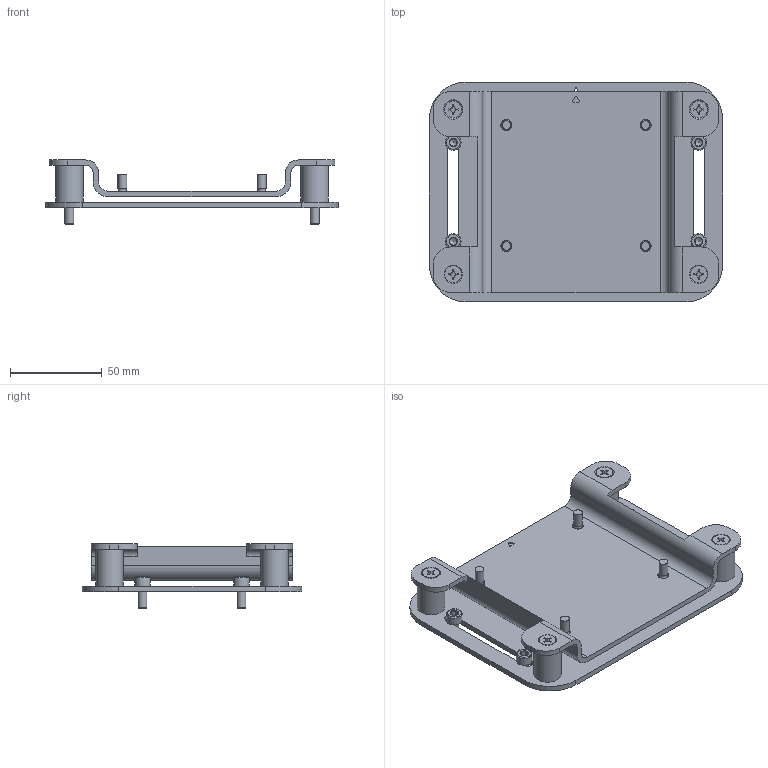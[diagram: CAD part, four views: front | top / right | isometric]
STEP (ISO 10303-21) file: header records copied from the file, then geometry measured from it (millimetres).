
FILE_DESCRIPTION(/* description */ (''),/* implementation_level */ '2;1');
FILE_NAME(/* name */ 'KLM-ZJ-SZ.stp',/* time_stamp */ '2025-08-06T18:02:09+08:00',/* author */ (''),/* organization */ (''),/* preprocessor_version */ 'ST-DEVELOPER v16',/* originating_system */ 'SIEMENS PLM Software NX 10.0',/* authorisation */ '');
FILE_SCHEMA (('AP203_CONFIGURATION_CONTROLLED_3D_DESIGN_OF_MECHANICAL_PARTS_AND_ASSEMBLIES_MIM_LF { 1 0 10303 403 2 1 2}'));
Length unit declared in the file: millimetre
Products named in the file (1): JSB-34C87966jyn5
Bounding box: 160 x 120 x 35 mm (x, y, z)
Volume: 120453.5 mm3; surface area: 84374 mm2
Topology: 22 solids, 22 shells, 549 faces, 1324 edges, 836 vertices
Faces by surface type: plane 385, cylinder 84, cone 60, torus 20
Full cylindrical faces by diameter (mm): 4.826 x16, 6 x16, 8.5 x4, 9.3 x12, 15 x4
Entity records: 19087 total; most frequent: CARTESIAN_POINT 2760, DIRECTION 2542, ORIENTED_EDGE 2424, EDGE_CURVE 1212, LINE 922, VECTOR 922, VERTEX_POINT 836, AXIS2_PLACEMENT_3D 810
